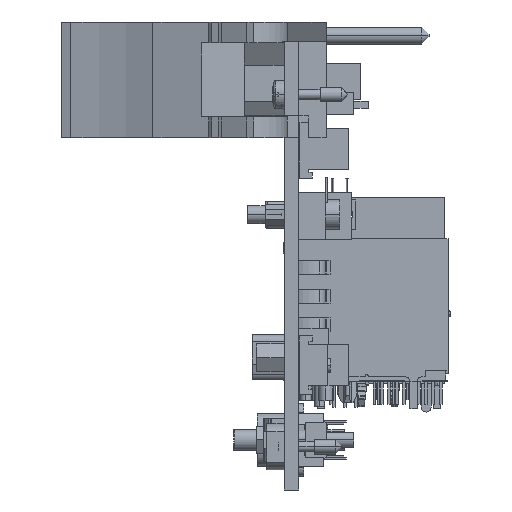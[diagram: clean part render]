
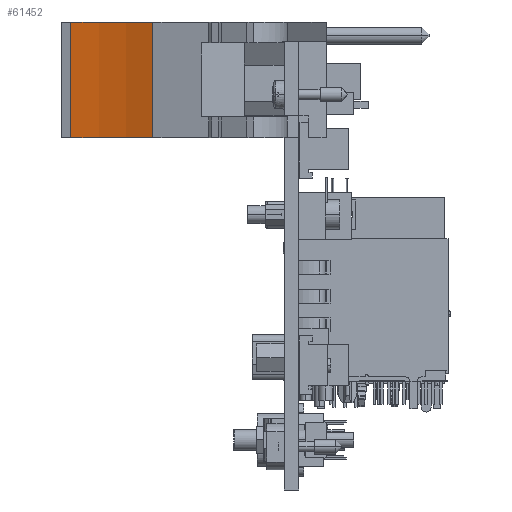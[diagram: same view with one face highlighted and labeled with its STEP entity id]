
A CAD part, front view. The second image highlights one B-rep face of the part: STEP entity #61452.
In plain terms, the highlighted cylindrical face has radius 51.46 mm (diameter 102.919 mm), a partial arc.
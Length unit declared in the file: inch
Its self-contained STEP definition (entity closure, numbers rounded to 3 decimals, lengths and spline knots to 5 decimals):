
#60093=CARTESIAN_POINT('',(-1.97633,-5.95079,-0.064));
#60094=DIRECTION('',(0.,0.,1.));
#60095=DIRECTION('',(0.435,0.9,0.));
#60096=AXIS2_PLACEMENT_3D('',#60093,#60094,#60095);
#60415=CARTESIAN_POINT('',(-1.97633,-5.95079,0.724));
#60416=DIRECTION('',(0.,0.,1.));
#60417=DIRECTION('',(0.435,0.9,0.));
#60418=AXIS2_PLACEMENT_3D('',#60415,#60416,#60417);
#60514=DIRECTION('',(0.,0.,1.));
#60515=VECTOR('',#60514,0.788);
#60516=CARTESIAN_POINT('',(-1.09503,-4.12655,-0.064));
#60517=LINE('',#60516,#60515);
#60530=DIRECTION('',(0.,0.,1.));
#60531=VECTOR('',#60530,0.788);
#60532=CARTESIAN_POINT('',(-1.653,-3.95079,-0.064));
#60533=LINE('',#60532,#60531);
#60843=CARTESIAN_POINT('',(-1.09503,-4.12655,-0.064));
#60844=CARTESIAN_POINT('',(-1.653,-3.95079,-0.064));
#60845=VERTEX_POINT('',#60843);
#60846=VERTEX_POINT('',#60844);
#60847=CARTESIAN_POINT('',(-1.09503,-4.12655,0.724));
#60848=CARTESIAN_POINT('',(-1.653,-3.95079,0.724));
#60849=VERTEX_POINT('',#60847);
#60850=VERTEX_POINT('',#60848);
#61441=CARTESIAN_POINT('',(-1.97633,-5.95079,0.724));
#61442=DIRECTION('',(0.,0.,1.));
#61443=DIRECTION('',(0.,1.,0.));
#61444=AXIS2_PLACEMENT_3D('',#61441,#61442,#61443);
#61445=CYLINDRICAL_SURFACE('',#61444,2.02597);
#61446=ORIENTED_EDGE('',*,*,#60946,.T.);
#61447=ORIENTED_EDGE('',*,*,#61432,.T.);
#61448=ORIENTED_EDGE('',*,*,#61271,.F.);
#61449=ORIENTED_EDGE('',*,*,#61413,.F.);
#61450=EDGE_LOOP('',(#61446,#61447,#61448,#61449));
#61451=FACE_OUTER_BOUND('',#61450,.F.);
#61452=ADVANCED_FACE('',(#61451),#61445,.F.);
#60097=CIRCLE('',#60096,2.02597);
#60419=CIRCLE('',#60418,2.02597);
#60946=EDGE_CURVE('',#60845,#60846,#60097,.T.);
#61271=EDGE_CURVE('',#60849,#60850,#60419,.T.);
#61413=EDGE_CURVE('',#60845,#60849,#60517,.T.);
#61432=EDGE_CURVE('',#60846,#60850,#60533,.T.);
